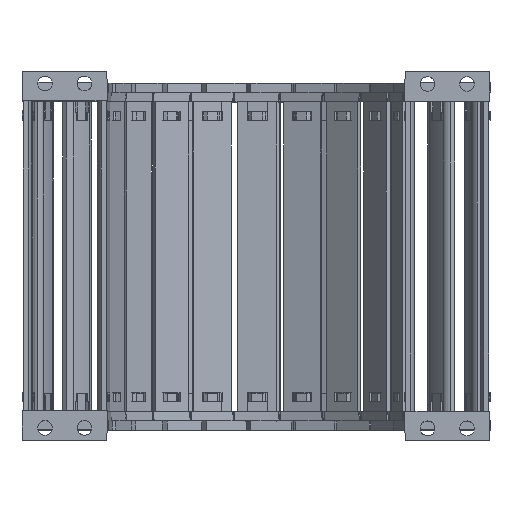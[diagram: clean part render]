
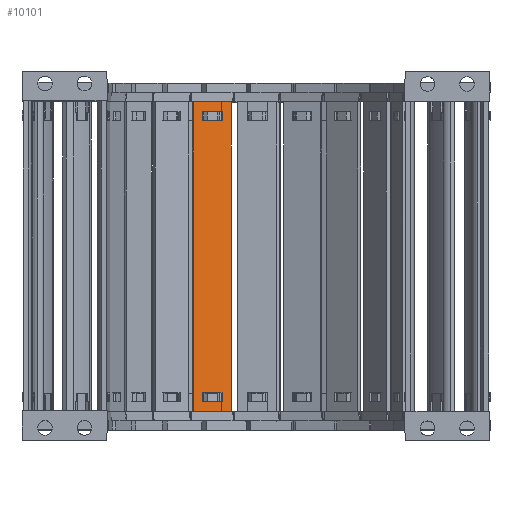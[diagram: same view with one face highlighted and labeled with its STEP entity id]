
A CAD part, top view. The second image highlights one B-rep face of the part: STEP entity #10101.
In plain terms, the highlighted planar face has unit normal (0.259, 0, 0.966).
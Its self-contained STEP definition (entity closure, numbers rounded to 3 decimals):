
#4663=FACE_BOUND('',#23383,.T.);
#4664=FACE_BOUND('',#23384,.T.);
#4665=FACE_BOUND('',#23385,.T.);
#5651=PLANE('',#121248);
#10101=ADVANCED_FACE('',(#4663,#4664,#4665),#5651,.F.);
#23383=EDGE_LOOP('',(#38223,#38224,#38225,#38226));
#23384=EDGE_LOOP('',(#38227,#38228,#38229,#38230));
#23385=EDGE_LOOP('',(#38231,#38232,#38233,#38234));
#38223=ORIENTED_EDGE('',*,*,#81626,.F.);
#38224=ORIENTED_EDGE('',*,*,#81597,.F.);
#38225=ORIENTED_EDGE('',*,*,#81631,.F.);
#38226=ORIENTED_EDGE('',*,*,#81608,.F.);
#38227=ORIENTED_EDGE('',*,*,#81643,.F.);
#38228=ORIENTED_EDGE('',*,*,#81636,.F.);
#38229=ORIENTED_EDGE('',*,*,#81675,.F.);
#38230=ORIENTED_EDGE('',*,*,#81650,.T.);
#38231=ORIENTED_EDGE('',*,*,#81673,.T.);
#38232=ORIENTED_EDGE('',*,*,#81676,.F.);
#38233=ORIENTED_EDGE('',*,*,#81677,.F.);
#38234=ORIENTED_EDGE('',*,*,#81678,.F.);
#69013=VERTEX_POINT('',#171403);
#69014=VERTEX_POINT('',#171405);
#69020=VERTEX_POINT('',#171420);
#69023=VERTEX_POINT('',#171426);
#69040=VERTEX_POINT('',#171483);
#69041=VERTEX_POINT('',#171484);
#69047=VERTEX_POINT('',#171498);
#69050=VERTEX_POINT('',#171506);
#69063=VERTEX_POINT('',#171553);
#69064=VERTEX_POINT('',#171555);
#69065=VERTEX_POINT('',#171560);
#69066=VERTEX_POINT('',#171562);
#81597=EDGE_CURVE('',#69013,#69014,#98089,.T.);
#81608=EDGE_CURVE('',#69023,#69020,#98100,.T.);
#81626=EDGE_CURVE('',#69014,#69023,#98115,.T.);
#81631=EDGE_CURVE('',#69020,#69013,#98120,.T.);
#81636=EDGE_CURVE('',#69040,#69041,#98125,.T.);
#81643=EDGE_CURVE('',#69041,#69047,#98132,.T.);
#81650=EDGE_CURVE('',#69050,#69047,#98139,.T.);
#81673=EDGE_CURVE('',#69064,#69063,#98153,.T.);
#81675=EDGE_CURVE('',#69050,#69040,#98155,.T.);
#81676=EDGE_CURVE('',#69065,#69063,#98156,.T.);
#81677=EDGE_CURVE('',#69066,#69065,#98157,.T.);
#81678=EDGE_CURVE('',#69064,#69066,#98158,.T.);
#98089=LINE('',#171404,#109721);
#98100=LINE('',#171427,#109732);
#98115=LINE('',#171462,#109747);
#98120=LINE('',#171471,#109752);
#98125=LINE('',#171482,#109757);
#98132=LINE('',#171497,#109764);
#98139=LINE('',#171510,#109771);
#98153=LINE('',#171554,#109785);
#98155=LINE('',#171558,#109787);
#98156=LINE('',#171559,#109788);
#98157=LINE('',#171561,#109789);
#98158=LINE('',#171563,#109790);
#109721=VECTOR('',#135874,1.);
#109732=VECTOR('',#135889,1.);
#109747=VECTOR('',#135924,1.);
#109752=VECTOR('',#135933,1.);
#109757=VECTOR('',#135942,1.);
#109764=VECTOR('',#135951,1.);
#109771=VECTOR('',#135960,1.);
#109785=VECTOR('',#136010,1.);
#109787=VECTOR('',#136014,1.);
#109788=VECTOR('',#136015,1.);
#109789=VECTOR('',#136016,1.);
#109790=VECTOR('',#136017,1.);
#121248=AXIS2_PLACEMENT_3D('',#171564,#136018,#136019);
#135874=DIRECTION('',(0.966,0.,-0.259));
#135889=DIRECTION('',(-0.966,0.,0.259));
#135924=DIRECTION('',(0.,1.,0.));
#135933=DIRECTION('',(0.,-1.,0.));
#135942=DIRECTION('',(-0.966,0.,0.259));
#135951=DIRECTION('',(0.,-1.,0.));
#135960=DIRECTION('',(-0.966,0.,0.259));
#136010=DIRECTION('',(0.,-1.,0.));
#136014=DIRECTION('',(0.,1.,0.));
#136015=DIRECTION('',(-0.966,0.,0.259));
#136016=DIRECTION('',(0.,-1.,0.));
#136017=DIRECTION('',(0.966,0.,-0.259));
#136018=DIRECTION('',(-0.259,0.,-0.966));
#136019=DIRECTION('',(-0.966,0.,0.259));
#171403=CARTESIAN_POINT('',(-99.114,-121.53,-76.948));
#171404=CARTESIAN_POINT('',(-99.114,-121.53,-76.948));
#171405=CARTESIAN_POINT('',(-91.242,-121.53,-79.058));
#171420=CARTESIAN_POINT('',(-99.114,-117.882,-76.948));
#171426=CARTESIAN_POINT('',(-91.242,-117.882,-79.058));
#171427=CARTESIAN_POINT('',(-91.242,-117.882,-79.058));
#171462=CARTESIAN_POINT('',(-91.242,-152.96,-79.058));
#171471=CARTESIAN_POINT('',(-99.114,-149.36,-76.948));
#171482=CARTESIAN_POINT('',(-91.242,-3.97,-79.058));
#171483=CARTESIAN_POINT('',(-91.242,-3.97,-79.058));
#171484=CARTESIAN_POINT('',(-99.114,-3.97,-76.948));
#171497=CARTESIAN_POINT('',(-99.114,-3.97,-76.948));
#171498=CARTESIAN_POINT('',(-99.114,-7.618,-76.948));
#171506=CARTESIAN_POINT('',(-91.242,-7.618,-79.058));
#171510=CARTESIAN_POINT('',(-91.242,-7.618,-79.058));
#171553=CARTESIAN_POINT('',(-102.809,-125.5,-75.959));
#171554=CARTESIAN_POINT('',(-102.809,0.,-75.959));
#171555=CARTESIAN_POINT('',(-102.809,0.,-75.959));
#171558=CARTESIAN_POINT('',(-91.242,-7.618,-79.058));
#171559=CARTESIAN_POINT('',(-87.547,-125.5,-80.048));
#171560=CARTESIAN_POINT('',(-87.547,-125.5,-80.048));
#171561=CARTESIAN_POINT('',(-87.547,0.,-80.048));
#171562=CARTESIAN_POINT('',(-87.547,0.,-80.048));
#171563=CARTESIAN_POINT('',(-102.809,0.,-75.959));
#171564=CARTESIAN_POINT('',(-85.46,31.74,-80.607));
